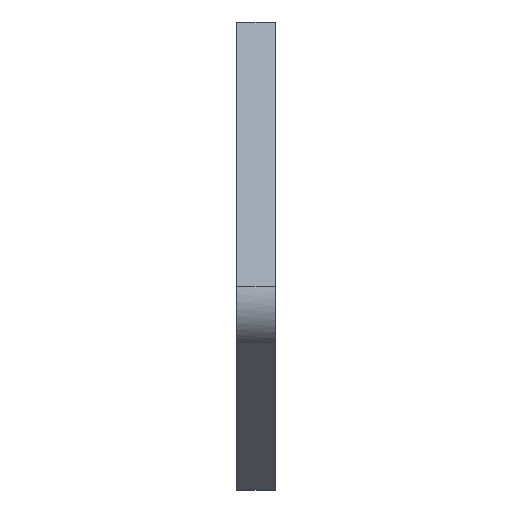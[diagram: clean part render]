
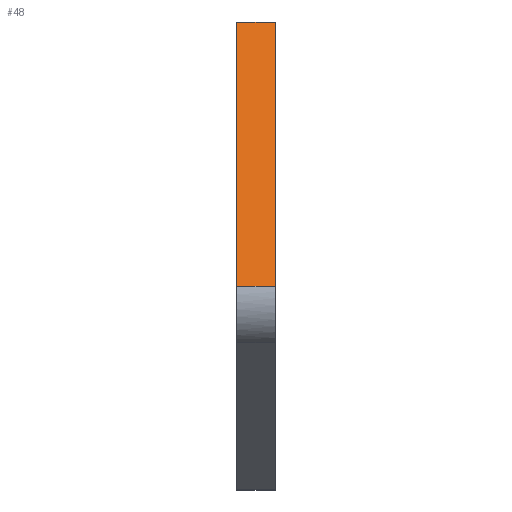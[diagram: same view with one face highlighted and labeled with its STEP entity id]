
A CAD part, top view. The second image highlights one B-rep face of the part: STEP entity #48.
In plain terms, the highlighted planar face has unit normal (0, 0.307, 0.952).
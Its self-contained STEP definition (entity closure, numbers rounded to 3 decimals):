
#48=ADVANCED_FACE('',(#76),#1079,.T.);
#76=FACE_OUTER_BOUND('',#104,.T.);
#104=EDGE_LOOP('',(#168,#169,#170,#171));
#168=ORIENTED_EDGE('',*,*,#803,.T.);
#169=ORIENTED_EDGE('',*,*,#804,.T.);
#170=ORIENTED_EDGE('',*,*,#805,.T.);
#171=ORIENTED_EDGE('',*,*,#801,.F.);
#415=PCURVE('',#1078,#571);
#418=PCURVE('',#1079,#574);
#419=PCURVE('',#1079,#575);
#420=PCURVE('',#1079,#576);
#421=PCURVE('',#1079,#577);
#425=PCURVE('',#1054,#581);
#463=PCURVE('',#1080,#619);
#494=PCURVE('',#1081,#650);
#571=DEFINITIONAL_REPRESENTATION('',(#901),#2206);
#574=DEFINITIONAL_REPRESENTATION('',(#906),#2206);
#575=DEFINITIONAL_REPRESENTATION('',(#908),#2206);
#576=DEFINITIONAL_REPRESENTATION('',(#910),#2206);
#577=DEFINITIONAL_REPRESENTATION('',(#911),#2206);
#581=DEFINITIONAL_REPRESENTATION('',(#915),#2206);
#619=DEFINITIONAL_REPRESENTATION('',(#952),#2206);
#650=DEFINITIONAL_REPRESENTATION('',(#965),#2206);
#723=SURFACE_CURVE('',#900,(#415,#421),.PCURVE_S1.);
#725=SURFACE_CURVE('',#905,(#418,#463),.PCURVE_S1.);
#726=SURFACE_CURVE('',#907,(#419,#425),.PCURVE_S1.);
#727=SURFACE_CURVE('',#909,(#420,#494),.PCURVE_S1.);
#801=EDGE_CURVE('',#1014,#1015,#723,.T.);
#803=EDGE_CURVE('',#1014,#1016,#725,.T.);
#804=EDGE_CURVE('',#1016,#1017,#726,.T.);
#805=EDGE_CURVE('',#1017,#1015,#727,.T.);
#900=B_SPLINE_CURVE_WITH_KNOTS('',1,(#1593,#1594),.UNSPECIFIED.,.F.,.F.,
(2,2),(0.,6.),.UNSPECIFIED.);
#901=B_SPLINE_CURVE_WITH_KNOTS('',1,(#1595,#1596),.UNSPECIFIED.,.F.,.F.,
(2,2),(0.,6.),.UNSPECIFIED.);
#905=B_SPLINE_CURVE_WITH_KNOTS('',1,(#1603,#1604),.UNSPECIFIED.,.F.,.F.,
(2,2),(5.,47.764),.UNSPECIFIED.);
#906=B_SPLINE_CURVE_WITH_KNOTS('',1,(#1605,#1606),.UNSPECIFIED.,.F.,.F.,
(2,2),(5.,47.764),.UNSPECIFIED.);
#907=B_SPLINE_CURVE_WITH_KNOTS('',1,(#1607,#1608),.UNSPECIFIED.,.F.,.F.,
(2,2),(0.,6.),.UNSPECIFIED.);
#908=B_SPLINE_CURVE_WITH_KNOTS('',1,(#1609,#1610),.UNSPECIFIED.,.F.,.F.,
(2,2),(0.,6.),.UNSPECIFIED.);
#909=B_SPLINE_CURVE_WITH_KNOTS('',1,(#1611,#1612),.UNSPECIFIED.,.F.,.F.,
(2,2),(-47.764,-5.),.UNSPECIFIED.);
#910=B_SPLINE_CURVE_WITH_KNOTS('',1,(#1613,#1614),.UNSPECIFIED.,.F.,.F.,
(2,2),(-47.764,-5.),.UNSPECIFIED.);
#911=B_SPLINE_CURVE_WITH_KNOTS('',1,(#1615,#1616),.UNSPECIFIED.,.F.,.F.,
(2,2),(0.,6.),.UNSPECIFIED.);
#915=B_SPLINE_CURVE_WITH_KNOTS('',1,(#1629,#1630),.UNSPECIFIED.,.F.,.F.,
(2,2),(0.,6.),.UNSPECIFIED.);
#952=B_SPLINE_CURVE_WITH_KNOTS('',1,(#1832,#1833),.UNSPECIFIED.,.F.,.F.,
(2,2),(5.,47.764),.UNSPECIFIED.);
#965=B_SPLINE_CURVE_WITH_KNOTS('',1,(#1993,#1994),.UNSPECIFIED.,.F.,.F.,
(2,2),(-47.764,-5.),.UNSPECIFIED.);
#1014=VERTEX_POINT('',#1477);
#1015=VERTEX_POINT('',#1478);
#1016=VERTEX_POINT('',#1479);
#1017=VERTEX_POINT('',#1480);
#1054=(
BOUNDED_SURFACE()
B_SPLINE_SURFACE(2,1,((#1133,#1134),(#1135,#1136),(#1137,#1138)),
 .UNSPECIFIED.,.F.,.F.,.F.)
B_SPLINE_SURFACE_WITH_KNOTS((3,3),(2,2),(47.764,57.855),
(0.,6.),.UNSPECIFIED.)
GEOMETRIC_REPRESENTATION_ITEM()
RATIONAL_B_SPLINE_SURFACE(((1.,1.),(0.782,0.782),
(1.,1.)))
REPRESENTATION_ITEM('')
SURFACE()
);
#1078=PLANE('',#1107);
#1079=PLANE('',#1108);
#1080=PLANE('',#1109);
#1081=PLANE('',#1110);
#1107=AXIS2_PLACEMENT_3D('',#1131,#1119,$);
#1108=AXIS2_PLACEMENT_3D('',#1132,#1120,$);
#1109=AXIS2_PLACEMENT_3D('',#1301,#1121,$);
#1110=AXIS2_PLACEMENT_3D('',#1302,#1122,$);
#1119=DIRECTION('',(0.,1.,0.));
#1120=DIRECTION('',(0.,0.307,0.952));
#1121=DIRECTION('',(-1.,0.,0.));
#1122=DIRECTION('',(1.,0.,0.));
#1131=CARTESIAN_POINT('',(-748.,315.,-17.));
#1132=CARTESIAN_POINT('',(-748.,315.,40.));
#1133=CARTESIAN_POINT('',(-748.,274.304,53.137));
#1134=CARTESIAN_POINT('',(-742.,274.304,53.137));
#1135=CARTESIAN_POINT('',(-748.,268.618,54.973));
#1136=CARTESIAN_POINT('',(-742.,268.618,54.973));
#1137=CARTESIAN_POINT('',(-748.,265.558,49.84));
#1138=CARTESIAN_POINT('',(-742.,265.558,49.84));
#1301=CARTESIAN_POINT('',(-748.,234.,-25.812));
#1302=CARTESIAN_POINT('',(-742.,234.,-25.812));
#1477=CARTESIAN_POINT('',(-748.,315.,40.));
#1478=CARTESIAN_POINT('',(-742.,315.,40.));
#1479=CARTESIAN_POINT('',(-748.,274.304,53.137));
#1480=CARTESIAN_POINT('',(-742.,274.304,53.137));
#1593=CARTESIAN_POINT('',(-748.,315.,40.));
#1594=CARTESIAN_POINT('',(-742.,315.,40.));
#1595=CARTESIAN_POINT('',(5.,0.));
#1596=CARTESIAN_POINT('',(5.,6.));
#1603=CARTESIAN_POINT('',(-748.,315.,40.));
#1604=CARTESIAN_POINT('',(-748.,274.304,53.137));
#1605=CARTESIAN_POINT('',(5.,0.));
#1606=CARTESIAN_POINT('',(47.764,0.));
#1607=CARTESIAN_POINT('',(-748.,274.304,53.137));
#1608=CARTESIAN_POINT('',(-742.,274.304,53.137));
#1609=CARTESIAN_POINT('',(47.764,0.));
#1610=CARTESIAN_POINT('',(47.764,6.));
#1611=CARTESIAN_POINT('',(-742.,274.304,53.137));
#1612=CARTESIAN_POINT('',(-742.,315.,40.));
#1613=CARTESIAN_POINT('',(47.764,6.));
#1614=CARTESIAN_POINT('',(5.,6.));
#1615=CARTESIAN_POINT('',(5.,0.));
#1616=CARTESIAN_POINT('',(5.,6.));
#1629=CARTESIAN_POINT('',(47.764,0.));
#1630=CARTESIAN_POINT('',(47.764,6.));
#1832=CARTESIAN_POINT('',(26.,40.5));
#1833=CARTESIAN_POINT('',(39.137,-0.196));
#1993=CARTESIAN_POINT('',(-0.196,39.137));
#1994=CARTESIAN_POINT('',(40.5,26.));
#2206=(
GEOMETRIC_REPRESENTATION_CONTEXT(2)
PARAMETRIC_REPRESENTATION_CONTEXT()
REPRESENTATION_CONTEXT('pspace','')
);
